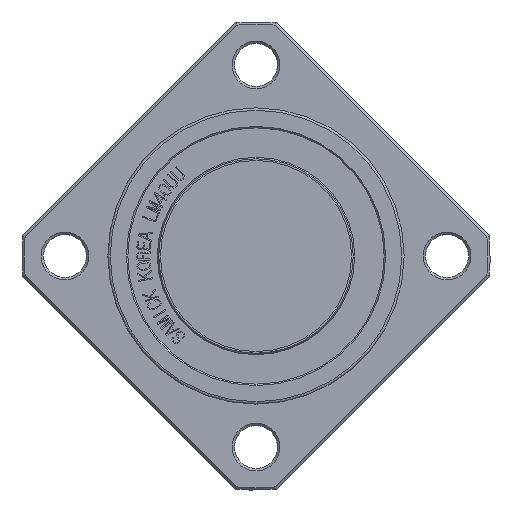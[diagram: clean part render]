
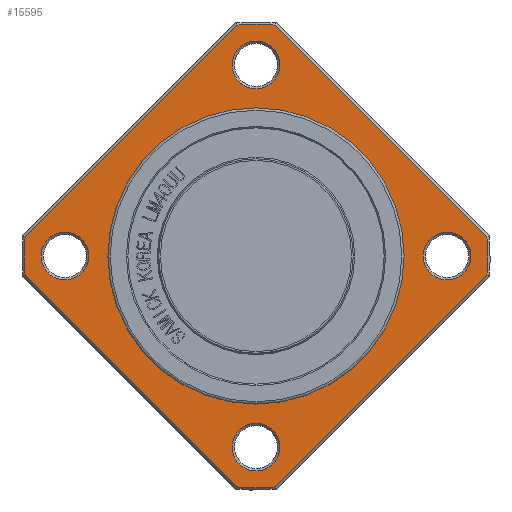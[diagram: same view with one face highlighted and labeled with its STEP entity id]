
A CAD part, front view. The second image highlights one B-rep face of the part: STEP entity #15595.
In plain terms, the highlighted planar face has unit normal (0, -1, 0).
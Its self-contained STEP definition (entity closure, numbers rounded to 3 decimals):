
#2166=FACE_BOUND('',#3357,.T.);
#2167=FACE_BOUND('',#3358,.T.);
#2168=FACE_BOUND('',#3359,.T.);
#2169=FACE_BOUND('',#3360,.T.);
#2170=FACE_BOUND('',#3361,.T.);
#2228=PLANE('',#16497);
#2485=FACE_OUTER_BOUND('',#3356,.T.);
#3356=EDGE_LOOP('',(#10764,#10765,#10766,#10767,#10768,#10769,#10770,#10771));
#3357=EDGE_LOOP('',(#10772));
#3358=EDGE_LOOP('',(#10773));
#3359=EDGE_LOOP('',(#10774,#10775));
#3360=EDGE_LOOP('',(#10776));
#3361=EDGE_LOOP('',(#10777));
#4286=LINE('',#18850,#5454);
#4287=LINE('',#18854,#5455);
#4288=LINE('',#18858,#5456);
#4289=LINE('',#18862,#5457);
#5454=VECTOR('',#16912,10.);
#5455=VECTOR('',#16915,10.);
#5456=VECTOR('',#16918,10.);
#5457=VECTOR('',#16921,10.);
#6629=CIRCLE('',#16495,5.);
#6631=CIRCLE('',#16498,48.5);
#6632=CIRCLE('',#16499,48.5);
#6633=CIRCLE('',#16500,48.5);
#6634=CIRCLE('',#16501,48.5);
#6635=CIRCLE('',#16502,5.);
#6636=CIRCLE('',#16503,5.);
#6637=CIRCLE('',#16504,31.);
#6638=CIRCLE('',#16505,31.);
#6639=CIRCLE('',#16506,5.);
#6723=VERTEX_POINT('',#18842);
#6725=VERTEX_POINT('',#18848);
#6726=VERTEX_POINT('',#18849);
#6727=VERTEX_POINT('',#18851);
#6728=VERTEX_POINT('',#18853);
#6729=VERTEX_POINT('',#18855);
#6730=VERTEX_POINT('',#18857);
#6731=VERTEX_POINT('',#18859);
#6732=VERTEX_POINT('',#18861);
#6733=VERTEX_POINT('',#18864);
#6734=VERTEX_POINT('',#18866);
#6735=VERTEX_POINT('',#18868);
#6736=VERTEX_POINT('',#18869);
#6737=VERTEX_POINT('',#18872);
#8337=EDGE_CURVE('',#6723,#6723,#6629,.T.);
#8340=EDGE_CURVE('',#6725,#6726,#4286,.T.);
#8341=EDGE_CURVE('',#6725,#6727,#6631,.T.);
#8342=EDGE_CURVE('',#6728,#6727,#4287,.T.);
#8343=EDGE_CURVE('',#6728,#6729,#6632,.T.);
#8344=EDGE_CURVE('',#6730,#6729,#4288,.T.);
#8345=EDGE_CURVE('',#6730,#6731,#6633,.T.);
#8346=EDGE_CURVE('',#6732,#6731,#4289,.T.);
#8347=EDGE_CURVE('',#6732,#6726,#6634,.T.);
#8348=EDGE_CURVE('',#6733,#6733,#6635,.T.);
#8349=EDGE_CURVE('',#6734,#6734,#6636,.T.);
#8350=EDGE_CURVE('',#6735,#6736,#6637,.T.);
#8351=EDGE_CURVE('',#6736,#6735,#6638,.T.);
#8352=EDGE_CURVE('',#6737,#6737,#6639,.T.);
#10764=ORIENTED_EDGE('',*,*,#8340,.F.);
#10765=ORIENTED_EDGE('',*,*,#8341,.T.);
#10766=ORIENTED_EDGE('',*,*,#8342,.F.);
#10767=ORIENTED_EDGE('',*,*,#8343,.T.);
#10768=ORIENTED_EDGE('',*,*,#8344,.F.);
#10769=ORIENTED_EDGE('',*,*,#8345,.T.);
#10770=ORIENTED_EDGE('',*,*,#8346,.F.);
#10771=ORIENTED_EDGE('',*,*,#8347,.T.);
#10772=ORIENTED_EDGE('',*,*,#8348,.F.);
#10773=ORIENTED_EDGE('',*,*,#8349,.F.);
#10774=ORIENTED_EDGE('',*,*,#8350,.F.);
#10775=ORIENTED_EDGE('',*,*,#8351,.F.);
#10776=ORIENTED_EDGE('',*,*,#8352,.F.);
#10777=ORIENTED_EDGE('',*,*,#8337,.F.);
#15595=ADVANCED_FACE('',(#2485,#2166,#2167,#2168,#2169,#2170),#2228,.T.);
#16495=AXIS2_PLACEMENT_3D('',#18843,#16905,#16906);
#16497=AXIS2_PLACEMENT_3D('',#18847,#16910,#16911);
#16498=AXIS2_PLACEMENT_3D('',#18852,#16913,#16914);
#16499=AXIS2_PLACEMENT_3D('',#18856,#16916,#16917);
#16500=AXIS2_PLACEMENT_3D('',#18860,#16919,#16920);
#16501=AXIS2_PLACEMENT_3D('',#18863,#16922,#16923);
#16502=AXIS2_PLACEMENT_3D('',#18865,#16924,#16925);
#16503=AXIS2_PLACEMENT_3D('',#18867,#16926,#16927);
#16504=AXIS2_PLACEMENT_3D('',#18870,#16928,#16929);
#16505=AXIS2_PLACEMENT_3D('',#18871,#16930,#16931);
#16506=AXIS2_PLACEMENT_3D('',#18873,#16932,#16933);
#16905=DIRECTION('center_axis',(0.,-1.,0.));
#16906=DIRECTION('ref_axis',(1.,0.,0.));
#16910=DIRECTION('center_axis',(0.,-1.,0.));
#16911=DIRECTION('ref_axis',(0.,0.,-1.));
#16912=DIRECTION('',(-0.707,0.,0.707));
#16913=DIRECTION('center_axis',(0.,-1.,0.));
#16914=DIRECTION('ref_axis',(1.,0.,0.));
#16915=DIRECTION('',(-0.707,0.,-0.707));
#16916=DIRECTION('center_axis',(0.,-1.,0.));
#16917=DIRECTION('ref_axis',(1.,0.,0.));
#16918=DIRECTION('',(0.707,0.,-0.707));
#16919=DIRECTION('center_axis',(0.,-1.,0.));
#16920=DIRECTION('ref_axis',(1.,0.,0.));
#16921=DIRECTION('',(0.707,0.,0.707));
#16922=DIRECTION('center_axis',(0.,-1.,0.));
#16923=DIRECTION('ref_axis',(1.,0.,0.));
#16924=DIRECTION('center_axis',(0.,-1.,0.));
#16925=DIRECTION('ref_axis',(0.,0.,-1.));
#16926=DIRECTION('center_axis',(0.,-1.,0.));
#16927=DIRECTION('ref_axis',(0.,0.,
1.));
#16928=DIRECTION('center_axis',(0.,-1.,0.));
#16929=DIRECTION('ref_axis',(1.,0.,0.));
#16930=DIRECTION('center_axis',(0.,-1.,0.));
#16931=DIRECTION('ref_axis',(1.,0.,0.));
#16932=DIRECTION('center_axis',(0.,-1.,0.));
#16933=DIRECTION('ref_axis',(-1.,0.,0.));
#18842=CARTESIAN_POINT('',(35.,51.,0.));
#18843=CARTESIAN_POINT('Origin',(40.,51.,0.));
#18847=CARTESIAN_POINT('Origin',(31.,51.,0.));
#18848=CARTESIAN_POINT('',(-3.99,51.,-48.336));
#18849=CARTESIAN_POINT('',(-48.336,51.,-3.99));
#18850=CARTESIAN_POINT('',(-31.671,51.,-20.655));
#18851=CARTESIAN_POINT('',(3.99,51.,-48.336));
#18852=CARTESIAN_POINT('Origin',(0.,51.,0.));
#18853=CARTESIAN_POINT('',(48.336,51.,-3.99));
#18854=CARTESIAN_POINT('',(20.655,51.,-31.671));
#18855=CARTESIAN_POINT('',(48.336,51.,3.99));
#18856=CARTESIAN_POINT('Origin',(0.,51.,0.));
#18857=CARTESIAN_POINT('',(3.99,51.,48.336));
#18858=CARTESIAN_POINT('',(47.171,51.,5.155));
#18859=CARTESIAN_POINT('',(-3.99,51.,48.336));
#18860=CARTESIAN_POINT('Origin',(0.,51.,0.));
#18861=CARTESIAN_POINT('',(-48.336,51.,3.99));
#18862=CARTESIAN_POINT('',(-5.155,51.,47.171));
#18863=CARTESIAN_POINT('Origin',(0.,51.,0.));
#18864=CARTESIAN_POINT('',(0.,51.,-35.));
#18865=CARTESIAN_POINT('Origin',(0.,51.,-40.));
#18866=CARTESIAN_POINT('',(0.,51.,35.));
#18867=CARTESIAN_POINT('Origin',(0.,51.,40.));
#18868=CARTESIAN_POINT('',(31.,51.,0.));
#18869=CARTESIAN_POINT('',(-31.,51.,0.));
#18870=CARTESIAN_POINT('Origin',(0.,51.,0.));
#18871=CARTESIAN_POINT('Origin',(0.,51.,0.));
#18872=CARTESIAN_POINT('',(-35.,51.,0.));
#18873=CARTESIAN_POINT('Origin',(-40.,51.,0.));
